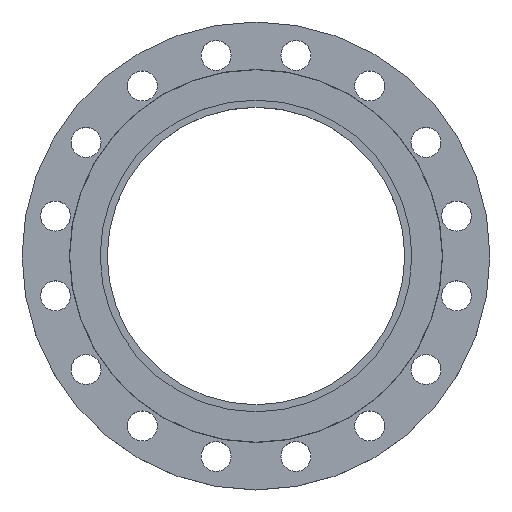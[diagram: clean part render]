
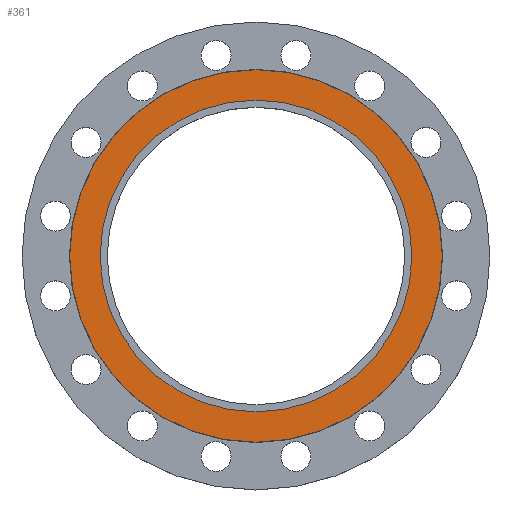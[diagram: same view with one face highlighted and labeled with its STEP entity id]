
A CAD part, top view. The second image highlights one B-rep face of the part: STEP entity #361.
In plain terms, the highlighted planar face has unit normal (0, 0, 1).
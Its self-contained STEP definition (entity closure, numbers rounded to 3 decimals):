
#79 = CARTESIAN_POINT ( 'NONE',  ( -171.5, 0., 0. ) ) ;
#127 = CIRCLE ( 'NONE', #457, 171.5 ) ;
#161 = CIRCLE ( 'NONE', #1450, 205. ) ;
#203 = DIRECTION ( 'NONE',  ( -1., 0., 0. ) ) ;
#207 = DIRECTION ( 'NONE',  ( 0., 0., -1. ) ) ;
#208 = CARTESIAN_POINT ( 'NONE',  ( 0., 0., 0. ) ) ;
#219 = DIRECTION ( 'NONE',  ( -1., 0., 0. ) ) ;
#220 = DIRECTION ( 'NONE',  ( 0., 0., -1. ) ) ;
#221 = CARTESIAN_POINT ( 'NONE',  ( 0., 0., 0. ) ) ;
#361 = ADVANCED_FACE ( 'NONE', ( #923, #922 ), #921, .T. ) ;
#438 = AXIS2_PLACEMENT_3D ( 'NONE', #715, #713, #712 ) ;
#457 = AXIS2_PLACEMENT_3D ( 'NONE', #221, #220, #219 ) ;
#466 = CARTESIAN_POINT ( 'NONE',  ( -205., 0., 0. ) ) ;
#471 = CIRCLE ( 'NONE', #438, 171.5 ) ;
#489 = CARTESIAN_POINT ( 'NONE',  ( 171.5, 0., 0. ) ) ;
#511 = CARTESIAN_POINT ( 'NONE',  ( 205., 0., 0. ) ) ;
#648 = DIRECTION ( 'NONE',  ( -1., 0., 0. ) ) ;
#649 = DIRECTION ( 'NONE',  ( 0., 0., -1. ) ) ;
#650 = CARTESIAN_POINT ( 'NONE',  ( 0., 0., 0. ) ) ;
#702 = EDGE_CURVE ( 'NONE', #1170, #1659, #471, .T. ) ;
#712 = DIRECTION ( 'NONE',  ( -1., 0., 0. ) ) ;
#713 = DIRECTION ( 'NONE',  ( 0., 0., -1. ) ) ;
#715 = CARTESIAN_POINT ( 'NONE',  ( 0., 0., 0. ) ) ;
#726 = AXIS2_PLACEMENT_3D ( 'NONE', #650, #649, #648 ) ;
#876 = EDGE_CURVE ( 'NONE', #1150, #1207, #1453, .T. ) ;
#917 = DIRECTION ( 'NONE',  ( 1., 0., 0. ) ) ;
#918 = DIRECTION ( 'NONE',  ( 0., 0., 1. ) ) ;
#920 = CARTESIAN_POINT ( 'NONE',  ( 0., 0., 0. ) ) ;
#921 = PLANE ( 'NONE',  #1554 ) ;
#922 = FACE_BOUND ( 'NONE', #1687, .T. ) ;
#923 = FACE_OUTER_BOUND ( 'NONE', #1173, .T. ) ;
#1150 = VERTEX_POINT ( 'NONE', #511 ) ;
#1170 = VERTEX_POINT ( 'NONE', #489 ) ;
#1173 = EDGE_LOOP ( 'NONE', ( #1537, #1298 ) ) ;
#1207 = VERTEX_POINT ( 'NONE', #466 ) ;
#1298 = ORIENTED_EDGE ( 'NONE', *, *, #876, .F. ) ;
#1302 = ORIENTED_EDGE ( 'NONE', *, *, #1547, .T. ) ;
#1306 = ORIENTED_EDGE ( 'NONE', *, *, #702, .T. ) ;
#1450 = AXIS2_PLACEMENT_3D ( 'NONE', #208, #207, #203 ) ;
#1453 = CIRCLE ( 'NONE', #726, 205. ) ;
#1537 = ORIENTED_EDGE ( 'NONE', *, *, #1557, .F. ) ;
#1547 = EDGE_CURVE ( 'NONE', #1659, #1170, #127, .T. ) ;
#1554 = AXIS2_PLACEMENT_3D ( 'NONE', #920, #918, #917 ) ;
#1557 = EDGE_CURVE ( 'NONE', #1207, #1150, #161, .T. ) ;
#1659 = VERTEX_POINT ( 'NONE', #79 ) ;
#1687 = EDGE_LOOP ( 'NONE', ( #1302, #1306 ) ) ;
